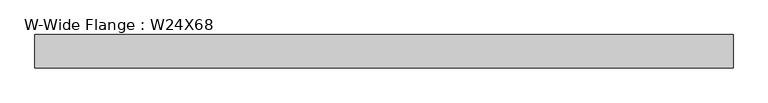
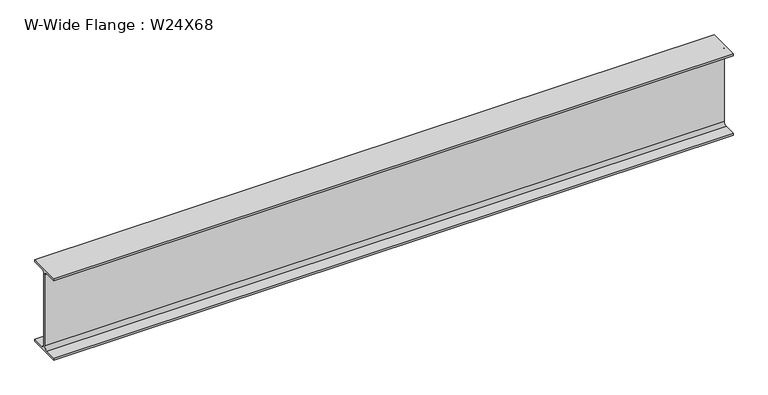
"""IFC4 building model written with IfcOpenShell, lengths in millimetres: beam geometry, W-Wide Flange : W24X68."""

import ifcopenshell
import ifcopenshell.guid

model = None  # the IFC model being written
_history = None  # IfcOwnerHistory: only IFC2X3 demands one
_inside = {}  # id of a spatial element -> (the spatial element, [elements in it])
_under = {}  # id of a project, library or spatial element -> (it, [spatial elements below it])
_declared = {}  # id of a project -> (the project, [libraries it declares])
_typed = {}  # id of a type object -> (the type object, [elements of that type])
_made_of = {}  # id of a material, layer set ... -> (it, [elements and type objects made of it])


def new_model(schema):
    """Start an empty IFC model of exactly this schema.

    Asked for "IFC4X3", IfcOpenShell would pick the latest addendum, in which some entities
    have other attributes; the version numbers below select the first issue.
    IFC2X3 requires an IfcOwnerHistory on every rooted entity: one is made here for all.
    """
    global model, _history
    if schema == "IFC4X3":
        model = ifcopenshell.file(schema_version=(4, 3, 0, 0))
    else:
        model = ifcopenshell.file(schema=schema)
    _inside.clear()
    _under.clear()
    _declared.clear()
    _typed.clear()
    _made_of.clear()
    _history = None
    if model.schema == "IFC2X3":
        org = make("IfcOrganization", Name="unknown")
        user = make(
            "IfcPersonAndOrganization",
            ThePerson=make("IfcPerson", FamilyName="unknown"),
            TheOrganization=org,
        )
        app = make(
            "IfcApplication",
            ApplicationDeveloper=org,
            Version="unknown",
            ApplicationFullName="unknown",
            ApplicationIdentifier="unknown",
        )
        _history = make(
            "IfcOwnerHistory",
            OwningUser=user,
            OwningApplication=app,
            ChangeAction="ADDED",
            CreationDate=0,
        )
    return model


def make(cls, **values):
    """One entity of the class cls with the attributes given. An attribute that is None is left unset."""
    return model.create_entity(
        cls, **{name: value for name, value in values.items() if value is not None}
    )


def rooted(cls, **values):
    """An entity with a GlobalId (a new one), such as an element, a storey or a relation."""
    return make(cls, GlobalId=ifcopenshell.guid.new(), OwnerHistory=_history, **values)


def si_unit(unit_type, name, prefix=None):
    """IfcSIUnit, for example si_unit("LENGTHUNIT", "METRE", prefix="MILLI")."""
    return make("IfcSIUnit", UnitType=unit_type, Prefix=prefix, Name=name)


def assignment(units):
    """IfcUnitAssignment: the units of a project."""
    return None if units is None else make("IfcUnitAssignment", Units=units)


def point(xyz):
    """IfcCartesianPoint."""
    return None if xyz is None else make("IfcCartesianPoint", Coordinates=xyz)


def direction(xyz):
    """IfcDirection."""
    return None if xyz is None else make("IfcDirection", DirectionRatios=xyz)


def frame(location, z_axis=None, x_axis=None):
    """IfcAxis2Placement3D, a coordinate frame: its origin and axes. An axis left out is left unset."""
    return make(
        "IfcAxis2Placement3D",
        Location=point(location),
        Axis=direction(z_axis),
        RefDirection=direction(x_axis),
    )


def frame_2d(location, x_axis=None):
    """IfcAxis2Placement2D, a coordinate frame in the plane: its origin and x axis."""
    return make(
        "IfcAxis2Placement2D", Location=point(location), RefDirection=direction(x_axis)
    )


def origin():
    """The frame at (0, 0, 0) with its axes left unset."""
    return frame((0.0, 0.0, 0.0))


def place(relative_to, where):
    """IfcLocalPlacement: puts the frame where relative to a parent placement (None: the world)."""
    return make(
        "IfcLocalPlacement", PlacementRelTo=relative_to, RelativePlacement=where
    )


def context(
    kind, dimensions, precision=None, world=None, true_north=None, identifier=None
):
    """IfcGeometricRepresentationContext, for example the 3D "Model" context."""
    return make(
        "IfcGeometricRepresentationContext",
        ContextIdentifier=identifier,
        ContextType=kind,
        CoordinateSpaceDimension=dimensions,
        Precision=precision,
        WorldCoordinateSystem=world,
        TrueNorth=true_north,
    )


def project(units=None, contexts=None):
    """IfcProject with its units and contexts."""
    return rooted(
        "IfcProject",
        Name="project",
        RepresentationContexts=contexts,
        UnitsInContext=assignment(units),
    )


def spatial(cls, under=None, at=None, **own):
    """A site, building, storey or space (cls), placed at a placement, below another one or the project."""
    s = rooted(cls, ObjectPlacement=at, **own)
    if under is not None:
        _under.setdefault(under.id(), (under, []))[1].append(s)
    return s


def polyline(points):
    """IfcPolyline through the points."""
    return make("IfcPolyline", Points=[point(p) for p in points])


def circle_curve(where, radius):
    """IfcCircle in the frame where."""
    return make("IfcCircle", Position=where, Radius=radius)


def trimmed(basis, trim1, trim2, sense, master):
    """IfcTrimmedCurve: the piece of a basis curve between two trims."""
    return make(
        "IfcTrimmedCurve",
        BasisCurve=basis,
        Trim1=trim1,
        Trim2=trim2,
        SenseAgreement=sense,
        MasterRepresentation=master,
    )


def segment(curve, same_sense, transition):
    """IfcCompositeCurveSegment."""
    return make(
        "IfcCompositeCurveSegment",
        Transition=transition,
        SameSense=same_sense,
        ParentCurve=curve,
    )


def composite_curve(segments, self_intersect=None):
    """IfcCompositeCurve: segments joined end to end."""
    return make("IfcCompositeCurve", Segments=segments, SelfIntersect=self_intersect)


def outline(outer, holes=None, kind="AREA"):
    """IfcArbitraryClosedProfileDef: a profile drawn as a closed curve; with holes, ...WithVoids."""
    if holes is None:
        return make("IfcArbitraryClosedProfileDef", ProfileType=kind, OuterCurve=outer)
    return make(
        "IfcArbitraryProfileDefWithVoids",
        ProfileType=kind,
        OuterCurve=outer,
        InnerCurves=holes,
    )


def extrude(swept, where, along, depth):
    """IfcExtrudedAreaSolid: the profile swept, set in the frame where, extruded along a direction by depth."""
    return make(
        "IfcExtrudedAreaSolid",
        SweptArea=swept,
        Position=where,
        ExtrudedDirection=direction(along),
        Depth=depth,
    )


def shape(context_of_items, identifier, shape_type, items):
    """IfcShapeRepresentation: the items that make up one representation, for example the "Body"."""
    return make(
        "IfcShapeRepresentation",
        ContextOfItems=context_of_items,
        RepresentationIdentifier=identifier,
        RepresentationType=shape_type,
        Items=items,
    )


def source(mapping_origin, context_of_items, identifier, shape_type, items):
    """IfcRepresentationMap: a shape defined once, which mapped items show again and again."""
    return make(
        "IfcRepresentationMap",
        MappingOrigin=mapping_origin,
        MappedRepresentation=shape(context_of_items, identifier, shape_type, items),
    )


def transform(
    local_origin,
    x_axis=None,
    y_axis=None,
    z_axis=None,
    scale=None,
    scale2=None,
    scale3=None,
    uniform=True,
):
    """IfcCartesianTransformationOperator3D, or its non-uniform kind. x_axis, y_axis, z_axis: its Axis1, 2, 3."""
    if uniform:
        return make(
            "IfcCartesianTransformationOperator3D",
            Axis1=direction(x_axis),
            Axis2=direction(y_axis),
            LocalOrigin=point(local_origin),
            Scale=scale,
            Axis3=direction(z_axis),
        )
    return make(
        "IfcCartesianTransformationOperator3DnonUniform",
        Axis1=direction(x_axis),
        Axis2=direction(y_axis),
        LocalOrigin=point(local_origin),
        Scale=scale,
        Axis3=direction(z_axis),
        Scale2=scale2,
        Scale3=scale3,
    )


def mapped(mapping_source, mapping_target):
    """IfcMappedItem: shows the shape of a source again, moved by a transform."""
    return make(
        "IfcMappedItem", MappingSource=mapping_source, MappingTarget=mapping_target
    )


def made_of(thing, what):
    """Note that an element or type object is made of a material, layer set ...; save() writes the relation."""
    if what is not None:
        _made_of.setdefault(what.id(), (what, []))[1].append(thing)
    return thing


def element(
    cls,
    number,
    at=None,
    inside=None,
    cuts=None,
    type_object=None,
    material=None,
    context=None,
    identifier="Body",
    shape_type=None,
    held_by="IfcProductDefinitionShape",
    body=None,
    shapes=None,
    **own,
):
    """One element of the class cls, such as IfcWall. Its Tag is "e" and its number.

    at: its placement. inside: the storey or other place that contains it. cuts: it is an
    opening in that element (IfcRelVoidsElement). A single representation is given by context,
    identifier, shape_type and body (its items); several are given by shapes. held_by: the class
    of the entity that holds the representations. save() writes the other relations.
    """
    e = rooted(cls, Tag="e%d" % number, ObjectPlacement=at, **own)
    if body is not None:
        shapes = [shape(context, identifier, shape_type, body)]
    if shapes is not None:
        e.Representation = make(held_by, Representations=shapes)
    if inside is not None:
        _inside.setdefault(inside.id(), (inside, []))[1].append(e)
    if cuts is not None:
        rooted(
            "IfcRelVoidsElement", RelatingBuildingElement=cuts, RelatedOpeningElement=e
        )
    if type_object is not None:
        _typed.setdefault(type_object.id(), (type_object, []))[1].append(e)
    return made_of(e, material)


def aggregate(whole, parts):
    """IfcRelAggregates: a whole, such as a stair, and the parts it consists of."""
    return rooted("IfcRelAggregates", RelatingObject=whole, RelatedObjects=parts)


def save(model, path):
    """Write the relations noted so far, then the file.

    IfcRelAggregates (storeys below a building ...), IfcRelContainedInSpatialStructure (elements
    in a storey), IfcRelDefinesByType, IfcRelAssociatesMaterial and IfcRelDeclares: one each for
    every whole, place, type object, material and project.
    """
    for whole, parts in _under.values():
        aggregate(whole, parts)
    for where, things in _inside.values():
        rooted(
            "IfcRelContainedInSpatialStructure",
            RelatedElements=things,
            RelatingStructure=where,
        )
    for kind, things in _typed.values():
        rooted("IfcRelDefinesByType", RelatedObjects=things, RelatingType=kind)
    for what, things in _made_of.values():
        rooted("IfcRelAssociatesMaterial", RelatedObjects=things, RelatingMaterial=what)
    for by, libraries in _declared.values():
        rooted("IfcRelDeclares", RelatingContext=by, RelatedDefinitions=libraries)
    model.write(path)


def w_wide_flange_w24x68_288c4e1d(model_context):
    return source(origin(), model_context, "Body", "SweptSolid", [
        extrude(outline(composite_curve([segment(polyline([(113.919, -286.131), (113.919, -300.99), (-113.919, -300.99), (-113.919, -286.131), (-28.5115, -286.131)]), True, "CONTINUOUS"), segment(trimmed(circle_curve(frame_2d((-28.5115, -262.89)), 23.241), [point((-28.5115, -286.131))], [point((-5.2705, -262.89))], True, "CARTESIAN"), True, "CONTINUOUS"), segment(polyline([(-5.2705, -262.89), (-5.2705, 262.89)]), True, "CONTINUOUS"), segment(trimmed(circle_curve(frame_2d((-28.5115, 262.89)), 23.241), [point((-5.2705, 262.89))], [point((-28.5115, 286.131))], True, "CARTESIAN"), True, "CONTINUOUS"), segment(polyline([(-28.5115, 286.131), (-113.919, 286.131), (-113.919, 300.99), (113.919, 300.99), (113.919, 286.131), (28.5115, 286.131)]), True, "CONTINUOUS"), segment(trimmed(circle_curve(frame_2d((28.5115, 262.89)), 23.241), [point((28.5115, 286.131))], [point((5.2705, 262.89))], True, "CARTESIAN"), True, "CONTINUOUS"), segment(polyline([(5.2705, 262.89), (5.2705, -262.89)]), True, "CONTINUOUS"), segment(trimmed(circle_curve(frame_2d((28.5115, -262.89)), 23.241), [point((5.2705, -262.89))], [point((28.5115, -286.131))], True, "CARTESIAN"), True, "CONTINUOUS"), segment(polyline([(28.5115, -286.131), (113.919, -286.131)]), True, "CONTINUOUS")], self_intersect=False)), frame((-2373.63, 0.0, 0.0), z_axis=(1.0, 0.0, 0.0), x_axis=(0.0, 1.0, 0.0)), (0.0, 0.0, 1.0), 4747.26),
    ])


if __name__ == "__main__":
    model = new_model("IFC4")
    model_context = context("Model", 3, world=origin())
    ifc_project = project(units=[si_unit("LENGTHUNIT", "METRE", prefix="MILLI")], contexts=[model_context])
    site = spatial("IfcSite", under=ifc_project)
    building = spatial("IfcBuilding", under=site)
    placement = place(None, origin())
    w_wide_flange_w24x68_shape = w_wide_flange_w24x68_288c4e1d(model_context)
    element("IfcBeam", 1, ObjectType="W-Wide Flange : W24X68", at=placement, inside=building, context=model_context, shape_type="MappedRepresentation", body=[
        mapped(w_wide_flange_w24x68_shape, transform((0.0, 0.0, 0.0), x_axis=(1.0, 0.0, 0.0), y_axis=(0.0, 1.0, 0.0), z_axis=(0.0, 0.0, 1.0))),
    ])
    save(model, "model.ifc")
